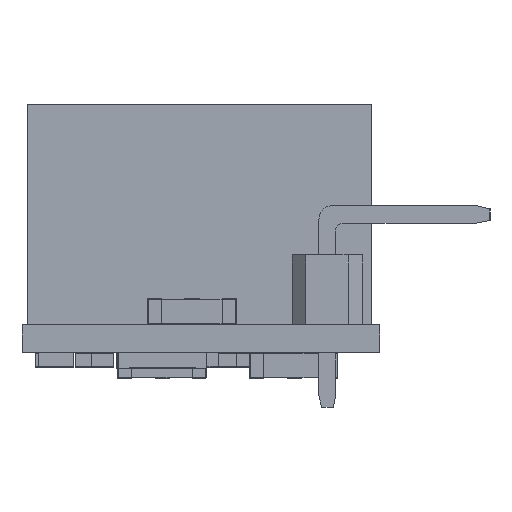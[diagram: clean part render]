
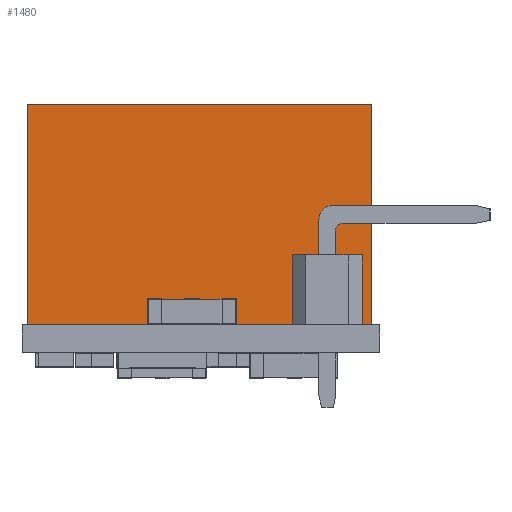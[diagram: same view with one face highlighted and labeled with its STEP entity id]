
A CAD part, left-side view. The second image highlights one B-rep face of the part: STEP entity #1480.
In plain terms, the highlighted planar face has unit normal (-1, 0, 0).
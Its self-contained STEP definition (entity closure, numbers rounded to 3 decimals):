
#100=CARTESIAN_POINT('',(13.45,0.298,0.));
#110=VERTEX_POINT('',#100);
#280=CARTESIAN_POINT('',(13.45,12.798,0.));
#290=VERTEX_POINT('',#280);
#320=CARTESIAN_POINT('',(13.45,12.798,0.));
#330=DIRECTION('',(0.,-1.,-0.));
#340=VECTOR('',#330,1.);
#350=LINE('',#320,#340);
#360=EDGE_CURVE('',#290,#110,#350,.T.);
#460=CARTESIAN_POINT('',(13.45,12.798,8.));
#470=DIRECTION('',(0.,-1.,-0.));
#480=VECTOR('',#470,1.);
#490=LINE('',#460,#480);
#500=CARTESIAN_POINT('',(13.45,12.798,8.));
#510=VERTEX_POINT('',#500);
#520=CARTESIAN_POINT('',(13.45,0.298,8.));
#530=VERTEX_POINT('',#520);
#540=EDGE_CURVE('',#510,#530,#490,.T.);
#860=CARTESIAN_POINT('',(13.45,0.298,0.));
#870=DIRECTION('',(0.,0.,1.));
#880=VECTOR('',#870,1.);
#890=LINE('',#860,#880);
#900=EDGE_CURVE('',#110,#530,#890,.T.);
#1270=CARTESIAN_POINT('',(13.45,12.798,0.));
#1280=DIRECTION('',(0.,0.,1.));
#1290=VECTOR('',#1280,1.);
#1300=LINE('',#1270,#1290);
#1310=EDGE_CURVE('',#290,#510,#1300,.T.);
#1370=CARTESIAN_POINT('',(13.45,0.298,0.));
#1380=DIRECTION('',(-1.,0.,0.));
#1390=DIRECTION('',(0.,1.,0.));
#1400=AXIS2_PLACEMENT_3D('',#1370,#1380,#1390);
#1410=PLANE('',#1400);
#1420=ORIENTED_EDGE('',*,*,#1310,.F.);
#1430=ORIENTED_EDGE('',*,*,#540,.F.);
#1440=ORIENTED_EDGE('',*,*,#900,.T.);
#1450=ORIENTED_EDGE('',*,*,#360,.T.);
#1460=EDGE_LOOP('',(#1450,#1440,#1430,#1420));
#1470=FACE_OUTER_BOUND('',#1460,.T.);
#1480=ADVANCED_FACE('',(#1470),#1410,.T.);
